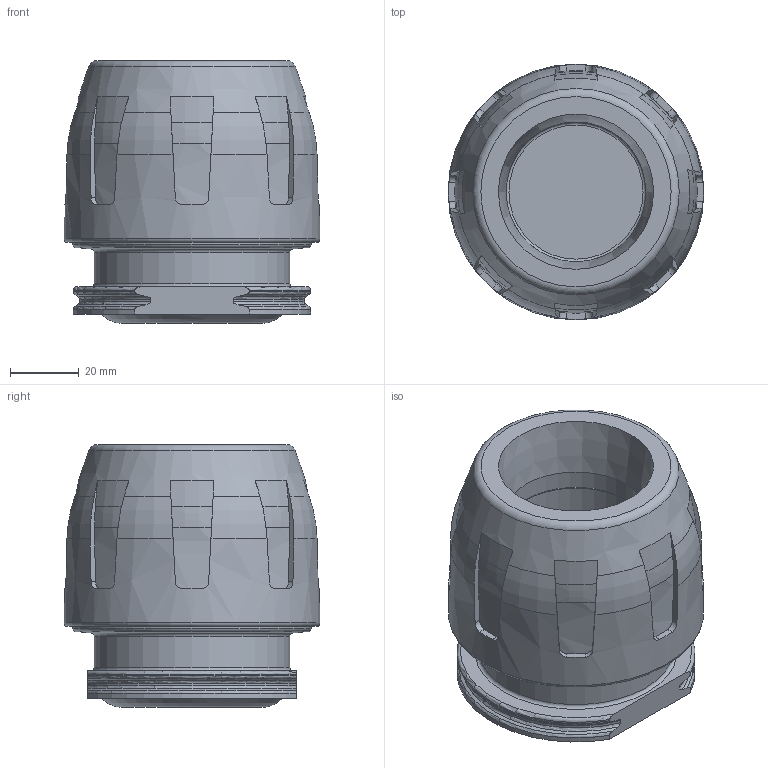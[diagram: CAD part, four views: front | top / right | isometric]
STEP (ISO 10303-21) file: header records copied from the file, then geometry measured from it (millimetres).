
FILE_DESCRIPTION( ( 'STEP AP214' ), '1' );
FILE_NAME( ' ', ' ', ( ' ' ), ( ' ' ), 'PSStep 11.0', 'VISI 17.0', ' ' );
FILE_SCHEMA( ( 'AUTOMOTIVE_DESIGN { 1 0 10303 214 1 1 1 1 }' ) );
Length unit declared in the file: millimetre
Products named in the file (2): 1; 2
Bounding box: 74.56 x 74.56 x 76.57 mm (x, y, z)
Volume: 187954.6 mm3; surface area: 52141.5 mm2
Topology: 2 solids, 2 shells, 231 faces, 646 edges, 428 vertices
Faces by surface type: plane 111, cone 50, cylinder 32, torus 22, bspline 16
Full cylindrical faces by diameter (mm): 40.7 x1, 40.9 x1, 57 x1, 58.9 x1, 59.8 x2, 64.1 x1, 65.4 x1, 69.4 x1, 70.4 x1
Entity records: 10081 total; most frequent: CARTESIAN_POINT 2697, ORIENTED_EDGE 1214, DIRECTION 1064, EDGE_CURVE 607, AXIS2_PLACEMENT_3D 460, VERTEX_POINT 417, EDGE_LOOP 270, FACE_OUTER_BOUND 253
